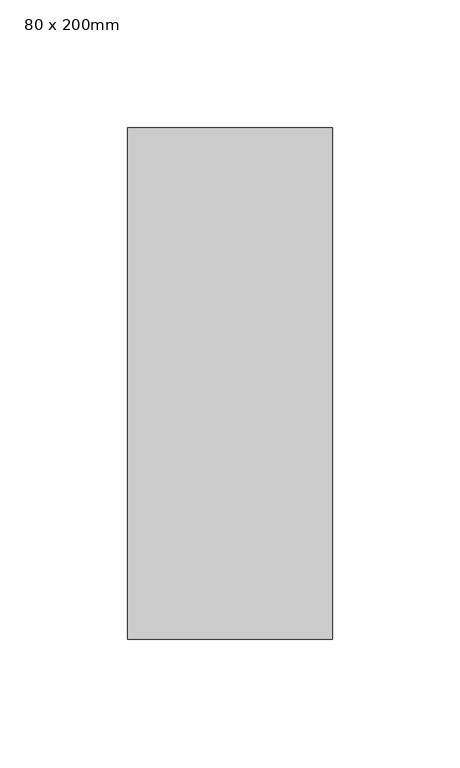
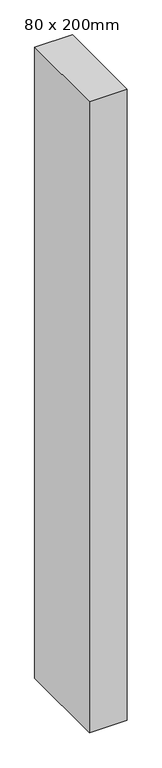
"""IFC4 building model written with IfcOpenShell, lengths in millimetres: member geometry, 矩形竖梃 : 80 x 200mm."""

from ifc_helpers import new_model, si_unit, frame, origin, place, context, project, spatial, polyline, outline, extrude, source, transform, mapped, element, save


def member_80_x_200mm_f4b51c8c(model_context):
    return source(origin(), model_context, "Body", "SweptSolid", [
        extrude(outline(polyline([(0.0, 100.0), (0.0, -100.0), (-80.0, -100.0), (-80.0, 100.0), (0.0, 100.0)])), frame((0.0, 0.0, -1410.0076317), z_axis=(0.0, 0.0, 1.0), x_axis=(1.0, 0.0, 0.0)), (0.0, 0.0, 1.0), 1410.0076317),
    ])


if __name__ == "__main__":
    model = new_model("IFC4")
    model_context = context("Model", 3, world=origin())
    ifc_project = project(units=[si_unit("LENGTHUNIT", "METRE", prefix="MILLI")], contexts=[model_context])
    site = spatial("IfcSite", under=ifc_project)
    building = spatial("IfcBuilding", under=site)
    placement = place(None, origin())
    member_80_x_200mm_shape = member_80_x_200mm_f4b51c8c(model_context)
    element("IfcMember", 1, ObjectType="矩形竖梃 : 80 x 200mm", at=placement, inside=building, context=model_context, shape_type="MappedRepresentation", body=[
        mapped(member_80_x_200mm_shape, transform((0.0, 0.0, 0.0), x_axis=(1.0, 0.0, 0.0), y_axis=(0.0, 1.0, 0.0), z_axis=(0.0, 0.0, 1.0))),
    ])
    save(model, "model.ifc")
